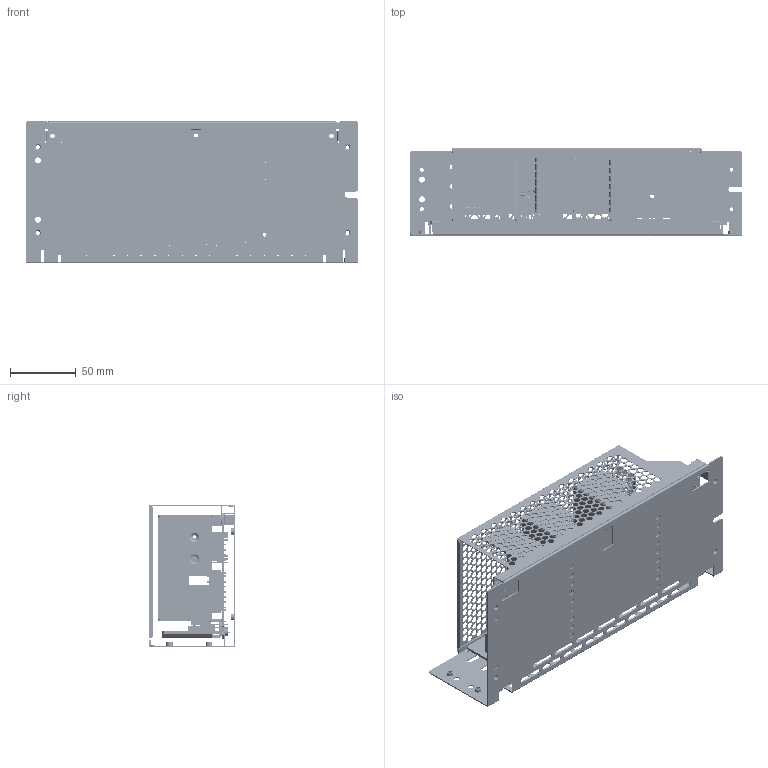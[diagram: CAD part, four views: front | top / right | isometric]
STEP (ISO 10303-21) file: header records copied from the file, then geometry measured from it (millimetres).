
FILE_DESCRIPTION((''),'2;1');
FILE_NAME('300W_ASM','2019-07-18T',('ROCK.WEN'),(''),'PRO/ENGINEER BY PARAMETRIC TECHNOLOGY CORPORATION, 2015240','PRO/ENGINEER BY PARAMETRIC TECHNOLOGY CORPORATION, 2015240','');
FILE_SCHEMA(('CONFIG_CONTROL_DESIGN','SHAPE_APPEARANCE_LAYERS_GROUPS'));
Products named in the file (19): CHASSIS; PWB; HSK3; PIN; Q3; HSK3_ASM; HSK2; 3105456700; HSK2_ASM; HSK1; BD1; HSK1_ASM; B2B-XH-A; B5P-VH; B6P-VH; B7P-VH; PWB_ASM; COVER; 300W_ASM
Assembly tree (28 placements, depth 4):
  300W_ASM
    CHASSIS
    PWB_ASM
      PWB
      HSK3_ASM  x2
        HSK3
        PIN
        Q3
      HSK2_ASM  x2
        HSK2
        PIN
        Q3
        3105456700
      HSK1_ASM
        HSK1
        BD1
        Q3  x2
      B2B-XH-A
      B5P-VH
      B6P-VH
      B7P-VH
    COVER
Bounding box: 252 x 66 x 108.05 mm (x, y, z)
Volume: 135521.4 mm3; surface area: 227060 mm2
Topology: 33 solids, 33 shells, 3703 faces, 10375 edges, 6798 vertices
Faces by surface type: cylinder 2453, plane 1208, cone 42
Entity records: 140758 total; most frequent: DIRECTION 20658, CARTESIAN_POINT 18665, ORIENTED_EDGE 18532, EDGE_CURVE 9266, PRESENTATION_STYLE_ASSIGNMENT 8935, STYLED_ITEM 8755, CURVE_STYLE 8748, AXIS2_PLACEMENT_3D 8061
